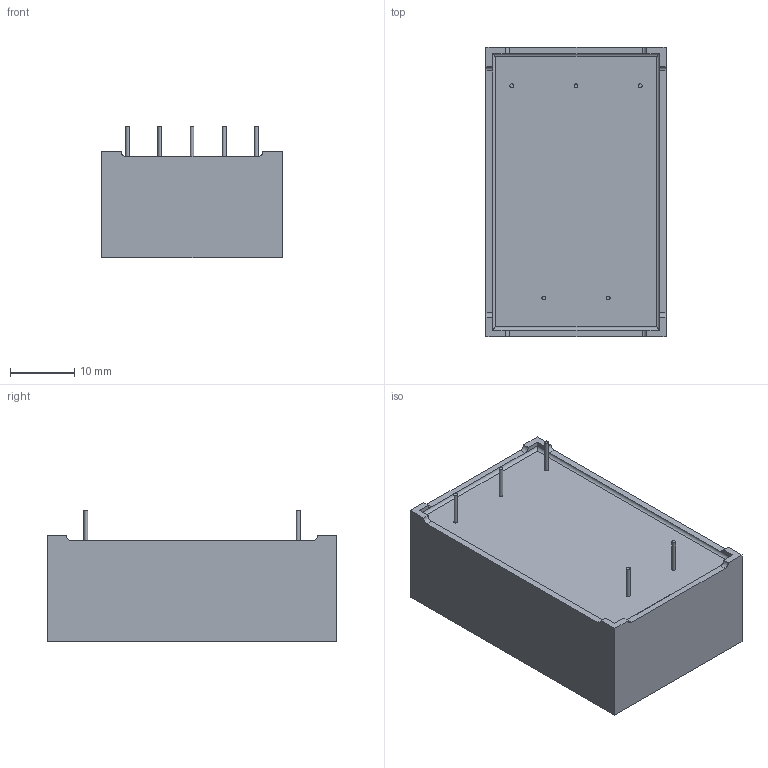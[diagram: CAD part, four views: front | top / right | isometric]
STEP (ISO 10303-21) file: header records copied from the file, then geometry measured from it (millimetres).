
FILE_DESCRIPTION((''),'2;1');
FILE_NAME('D:\_ PRODUCT\New project\3D request\FN402\FN402.stp','2013-03-19T11:33:20',('sayan.penton'),(''),'Autodesk Inventor 2010','Autodesk Inventor 2010','');
FILE_SCHEMA(('AUTOMOTIVE_DESIGN { 1 0 10303 214 1 1 1 1 }'));
Length unit declared in the file: millimetre
Products named in the file (1): Part1
Bounding box: 28 x 45 x 20.5 mm (x, y, z)
Volume: 19378.5 mm3; surface area: 4947.9 mm2
Topology: 1 solids, 1 shells, 44 faces, 99 edges, 62 vertices
Faces by surface type: plane 27, cylinder 17
Full cylindrical faces by diameter (mm): 0.6 x5
Entity records: 1266 total; most frequent: DIRECTION 214, CARTESIAN_POINT 201, ORIENTED_EDGE 188, EDGE_CURVE 94, AXIS2_PLACEMENT_3D 75, VECTOR 64, LINE 64, VERTEX_POINT 62
